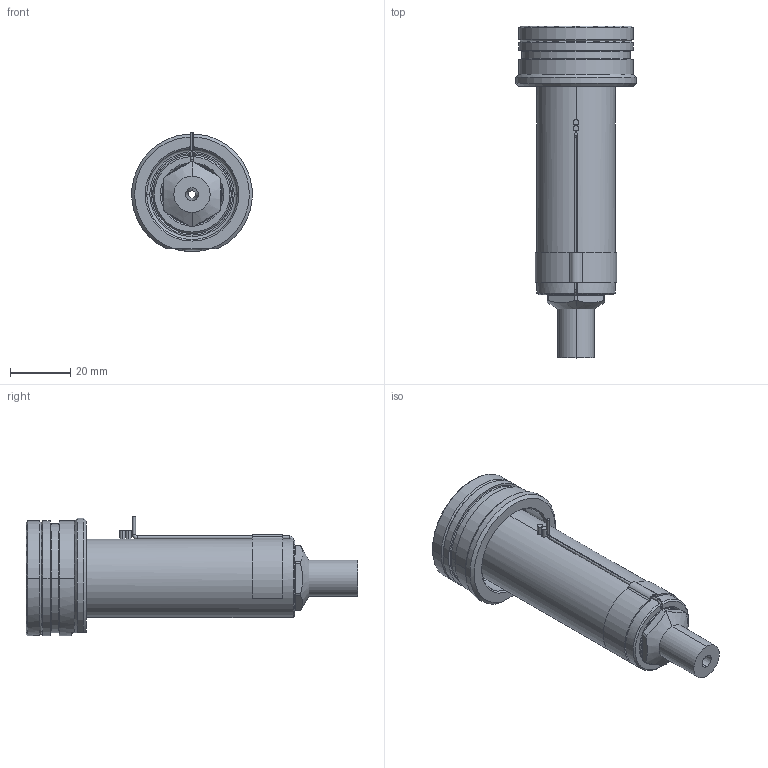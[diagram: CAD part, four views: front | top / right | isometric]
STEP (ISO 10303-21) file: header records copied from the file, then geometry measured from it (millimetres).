
FILE_DESCRIPTION((''),'2;1');
FILE_NAME('EO08_VG-FBE_WR_080_SW','2024-02-19T13:56:02',('sundharh'),(''),'CREO PARAMETRIC BY PTC INC, 2023154','CREO PARAMETRIC BY PTC INC, 2023154','');
FILE_SCHEMA(('CONFIG_CONTROL_DESIGN'));
Length unit declared in the file: millimetre
Products named in the file (1): EO08_VG-FBE_WR_080_SW
Bounding box: 39.88 x 110 x 39.52 mm (x, y, z)
Volume: 55349.2 mm3; surface area: 17600.5 mm2
Topology: 1 solids, 1 shells, 204 faces, 498 edges, 301 vertices
Faces by surface type: cylinder 72, plane 46, cone 43, torus 29, bspline 12, sphere 2
Entity records: 7345 total; most frequent: CARTESIAN_POINT 2445, DIRECTION 1099, ORIENTED_EDGE 988, EDGE_CURVE 494, AXIS2_PLACEMENT_3D 462, VERTEX_POINT 301, CIRCLE 270, EDGE_LOOP 221
